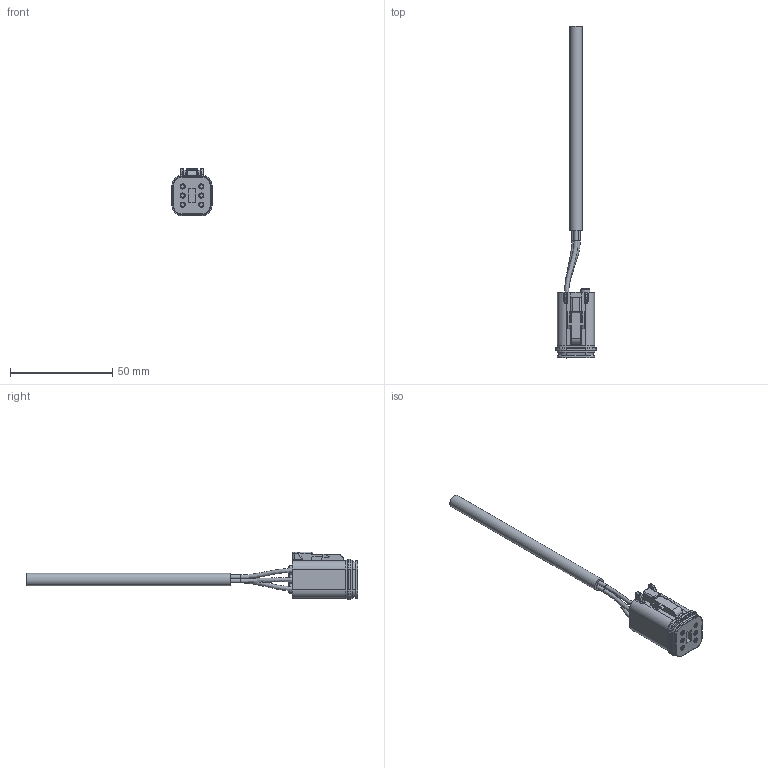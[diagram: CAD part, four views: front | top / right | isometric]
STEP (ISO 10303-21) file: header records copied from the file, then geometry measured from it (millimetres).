
FILE_DESCRIPTION(/* description */ (''),/* implementation_level */ '2;1');
FILE_NAME(/* name */ 'L1ZD.0.B_B_1-Kabelsatz.stp',/* time_stamp */ '2020-02-13T13:25:33+01:00',/* author */ (''),/* organization */ (''),/* preprocessor_version */ 'ST-DEVELOPER v16',/* originating_system */ 'SIEMENS PLM Software NX 11.0',/* authorisation */ '');
FILE_SCHEMA (('AP203_CONFIGURATION_CONTROLLED_3D_DESIGN_OF_MECHANICAL_PARTS_AND_ASSEMBLIES_MIM_LF { 1 0 10303 403 2 1 2}'));
Length unit declared in the file: millimetre
Products named in the file (1): hi2n1C48DBE9mnb1
Bounding box: 19.66 x 162.21 x 23.37 mm (x, y, z)
Volume: 15033.9 mm3; surface area: 7961.7 mm2
Topology: 9 solids, 9 shells, 555 faces, 1390 edges, 883 vertices
Faces by surface type: plane 318, cylinder 130, torus 48, revolution 24, bspline 21, cone 10, sphere 4
Full cylindrical faces by diameter (mm): 2 x6, 3 x3, 4.5 x3, 6.2 x1
Entity records: 18092 total; most frequent: CARTESIAN_POINT 4674, DIRECTION 2771, ORIENTED_EDGE 2730, EDGE_CURVE 1365, LINE 941, VECTOR 941, AXIS2_PLACEMENT_3D 903, VERTEX_POINT 880
